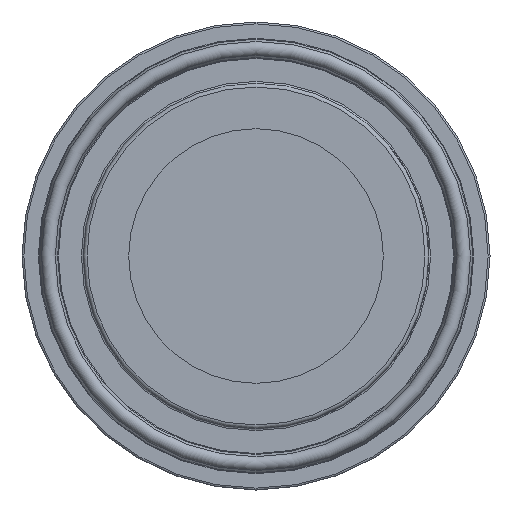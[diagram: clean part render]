
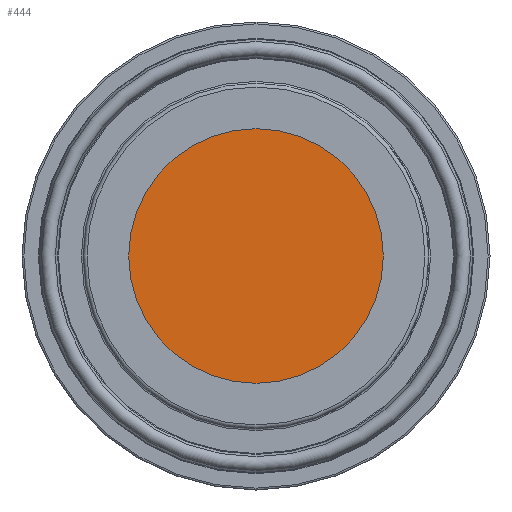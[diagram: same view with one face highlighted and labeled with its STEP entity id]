
A CAD part, left-side view. The second image highlights one B-rep face of the part: STEP entity #444.
In plain terms, the highlighted planar face has unit normal (-1, 0, 0).
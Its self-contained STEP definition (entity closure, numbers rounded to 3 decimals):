
#444 = ADVANCED_FACE( '', ( #1027 ), #1028, .F. );
#1027 = FACE_OUTER_BOUND( '', #2466, .T. );
#1028 = PLANE( '', #2467 );
#2466 = EDGE_LOOP( '', ( #5046 ) );
#2467 = AXIS2_PLACEMENT_3D( '', #5047, #5048, #5049 );
#5046 = ORIENTED_EDGE( '', *, *, #6293, .T. );
#5047 = CARTESIAN_POINT( '', ( 0., 0., 0. ) );
#5048 = DIRECTION( '', ( 1., 0., 0. ) );
#5049 = DIRECTION( '', ( 0., 0., -1. ) );
#6293 = EDGE_CURVE( '', #7154, #7154, #7155, .T. );
#7154 = VERTEX_POINT( '', #8520 );
#7155 = CIRCLE( '', #8521, 17.272 );
#8520 = CARTESIAN_POINT( '', ( 0., 0., 17.272 ) );
#8521 = AXIS2_PLACEMENT_3D( '', #10450, #10451, #10452 );
#10450 = CARTESIAN_POINT( '', ( 0., 0., 0. ) );
#10451 = DIRECTION( '', ( -1., 0., 0. ) );
#10452 = DIRECTION( '', ( 0., 0., 1. ) );
